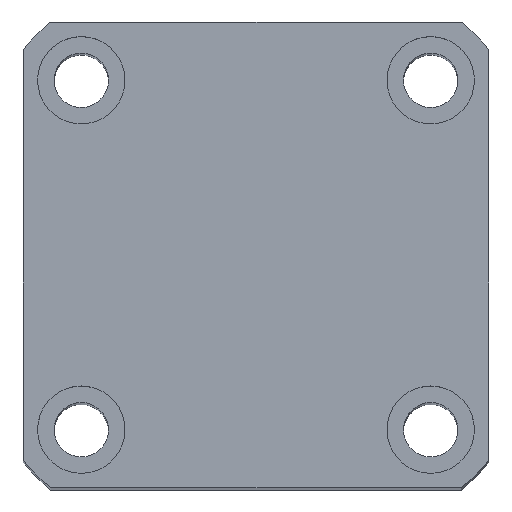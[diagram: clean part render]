
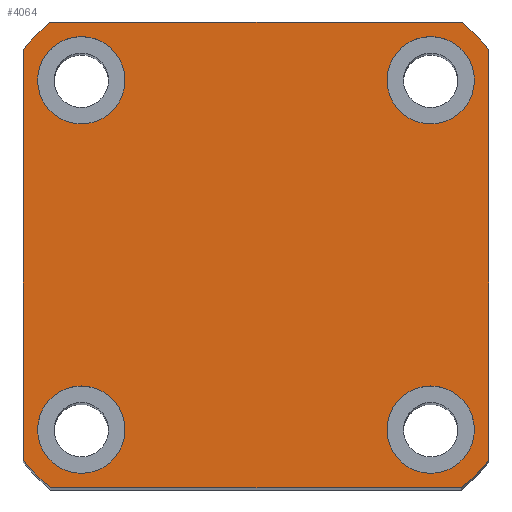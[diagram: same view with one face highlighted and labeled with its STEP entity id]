
A CAD part, top view. The second image highlights one B-rep face of the part: STEP entity #4064.
In plain terms, the highlighted planar face has unit normal (0, 0, 1) as drawn and (1, 0, 0) by its records, which use the part's own axes.
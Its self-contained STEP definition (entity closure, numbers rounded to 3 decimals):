
#130 = CARTESIAN_POINT ( 'NONE',  ( 125., -18., 22.5 ) ) ;
#208 = LINE ( 'NONE', #4447, #3366 ) ;
#314 = CIRCLE ( 'NONE', #5360, 32. ) ;
#329 = CARTESIAN_POINT ( 'NONE',  ( 125., 24., 24. ) ) ;
#440 = CARTESIAN_POINT ( 'NONE',  ( 125., 18., -13.5 ) ) ;
#446 = EDGE_CURVE ( 'NONE', #669, #4808, #2253, .T. ) ;
#553 = VERTEX_POINT ( 'NONE', #130 ) ;
#669 = VERTEX_POINT ( 'NONE', #5763 ) ;
#772 = AXIS2_PLACEMENT_3D ( 'NONE', #5924, #2297, #6556 ) ;
#796 = EDGE_CURVE ( 'NONE', #3899, #3981, #1052, .T. ) ;
#813 = DIRECTION ( 'NONE',  ( 0., 0., -1. ) ) ;
#818 = LINE ( 'NONE', #2943, #1020 ) ;
#819 = DIRECTION ( 'NONE',  ( 1., 0., 0. ) ) ;
#830 = CARTESIAN_POINT ( 'NONE',  ( 125., 0., 0. ) ) ;
#839 = AXIS2_PLACEMENT_3D ( 'NONE', #830, #819, #813 ) ;
#842 = LINE ( 'NONE', #329, #1044 ) ;
#873 = DIRECTION ( 'NONE',  ( 0., 0., -1. ) ) ;
#882 = ORIENTED_EDGE ( 'NONE', *, *, #7314, .F. ) ;
#894 = ORIENTED_EDGE ( 'NONE', *, *, #2593, .T. ) ;
#912 = EDGE_LOOP ( 'NONE', ( #6568, #5217 ) ) ;
#1020 = VECTOR ( 'NONE', #1681, 1000. ) ;
#1044 = VECTOR ( 'NONE', #1189, 1000. ) ;
#1047 = ORIENTED_EDGE ( 'NONE', *, *, #4332, .T. ) ;
#1052 = LINE ( 'NONE', #7989, #2741 ) ;
#1116 = FACE_BOUND ( 'NONE', #912, .T. ) ;
#1189 = DIRECTION ( 'NONE',  ( 0., -1., 0. ) ) ;
#1263 = VERTEX_POINT ( 'NONE', #6582 ) ;
#1284 = CARTESIAN_POINT ( 'NONE',  ( 125., -18., -22.5 ) ) ;
#1298 = ORIENTED_EDGE ( 'NONE', *, *, #1815, .F. ) ;
#1375 = VERTEX_POINT ( 'NONE', #5804 ) ;
#1486 = CARTESIAN_POINT ( 'NONE',  ( 125., -18., 13.5 ) ) ;
#1537 = CARTESIAN_POINT ( 'NONE',  ( 125., -21.166, -24. ) ) ;
#1566 = ORIENTED_EDGE ( 'NONE', *, *, #446, .T. ) ;
#1681 = DIRECTION ( 'NONE',  ( 0., 0., 1. ) ) ;
#1695 = AXIS2_PLACEMENT_3D ( 'NONE', #5764, #4551, #873 ) ;
#1815 = EDGE_CURVE ( 'NONE', #5591, #5397, #5945, .T. ) ;
#1929 = EDGE_CURVE ( 'NONE', #4808, #6063, #842, .T. ) ;
#1995 = CARTESIAN_POINT ( 'NONE',  ( 125., -24., 21.166 ) ) ;
#2127 = CIRCLE ( 'NONE', #3503, 4.5 ) ;
#2216 = DIRECTION ( 'NONE',  ( 1., 0., 0. ) ) ;
#2253 = CIRCLE ( 'NONE', #839, 32. ) ;
#2297 = DIRECTION ( 'NONE',  ( 1., 0., 0. ) ) ;
#2318 = DIRECTION ( 'NONE',  ( 1., 0., 0. ) ) ;
#2363 = CIRCLE ( 'NONE', #3650, 32. ) ;
#2377 = CIRCLE ( 'NONE', #772, 4.5 ) ;
#2387 = AXIS2_PLACEMENT_3D ( 'NONE', #5947, #2318, #6580 ) ;
#2463 = CARTESIAN_POINT ( 'NONE',  ( 125., 0., 0. ) ) ;
#2535 = DIRECTION ( 'NONE',  ( 1., 0., 0. ) ) ;
#2585 = EDGE_LOOP ( 'NONE', ( #7537, #894, #5606, #1566, #5269, #7479, #7069, #1047 ) ) ;
#2593 = EDGE_CURVE ( 'NONE', #1375, #1263, #3843, .T. ) ;
#2623 = EDGE_CURVE ( 'NONE', #3036, #4120, #5443, .T. ) ;
#2636 = AXIS2_PLACEMENT_3D ( 'NONE', #3034, #7316, #3634 ) ;
#2741 = VECTOR ( 'NONE', #7993, 1000. ) ;
#2750 = AXIS2_PLACEMENT_3D ( 'NONE', #5844, #2216, #6483 ) ;
#2765 = PLANE ( 'NONE',  #1695 ) ;
#2943 = CARTESIAN_POINT ( 'NONE',  ( 125., 24., 24. ) ) ;
#2987 = VERTEX_POINT ( 'NONE', #4762 ) ;
#3006 = FACE_BOUND ( 'NONE', #3637, .T. ) ;
#3034 = CARTESIAN_POINT ( 'NONE',  ( 125., 18., -18. ) ) ;
#3036 = VERTEX_POINT ( 'NONE', #6674 ) ;
#3076 = DIRECTION ( 'NONE',  ( 0., 0., -1. ) ) ;
#3165 = DIRECTION ( 'NONE',  ( 1., 0., 0. ) ) ;
#3274 = CARTESIAN_POINT ( 'NONE',  ( 125., -18., -18. ) ) ;
#3366 = VECTOR ( 'NONE', #5039, 1000. ) ;
#3503 = AXIS2_PLACEMENT_3D ( 'NONE', #6167, #2535, #6793 ) ;
#3594 = DIRECTION ( 'NONE',  ( 1., 0., 0. ) ) ;
#3599 = CARTESIAN_POINT ( 'NONE',  ( 125., -21.166, 24. ) ) ;
#3634 = DIRECTION ( 'NONE',  ( 0., 0., -1. ) ) ;
#3637 = EDGE_LOOP ( 'NONE', ( #1298, #882 ) ) ;
#3640 = VERTEX_POINT ( 'NONE', #440 ) ;
#3650 = AXIS2_PLACEMENT_3D ( 'NONE', #6806, #3165, #7447 ) ;
#3797 = EDGE_CURVE ( 'NONE', #4120, #3036, #2127, .T. ) ;
#3843 = CIRCLE ( 'NONE', #5131, 32. ) ;
#3899 = VERTEX_POINT ( 'NONE', #1995 ) ;
#3981 = VERTEX_POINT ( 'NONE', #5065 ) ;
#4064 = ADVANCED_FACE ( 'NONE', ( #3006, #7710, #6016, #1116, #7493 ), #2765, .T. ) ;
#4120 = VERTEX_POINT ( 'NONE', #5794 ) ;
#4286 = CIRCLE ( 'NONE', #2387, 4.5 ) ;
#4332 = EDGE_CURVE ( 'NONE', #3981, #5807, #314, .T. ) ;
#4447 = CARTESIAN_POINT ( 'NONE',  ( 125., 24., -24. ) ) ;
#4551 = DIRECTION ( 'NONE',  ( 1., 0., 0. ) ) ;
#4587 = EDGE_CURVE ( 'NONE', #2987, #3640, #4286, .T. ) ;
#4610 = EDGE_CURVE ( 'NONE', #1263, #669, #818, .T. ) ;
#4762 = CARTESIAN_POINT ( 'NONE',  ( 125., 18., -22.5 ) ) ;
#4808 = VERTEX_POINT ( 'NONE', #6294 ) ;
#4844 = EDGE_CURVE ( 'NONE', #5807, #1375, #208, .T. ) ;
#4987 = VERTEX_POINT ( 'NONE', #1486 ) ;
#5032 = AXIS2_PLACEMENT_3D ( 'NONE', #3274, #5283, #7005 ) ;
#5039 = DIRECTION ( 'NONE',  ( 0., 1., 0. ) ) ;
#5065 = CARTESIAN_POINT ( 'NONE',  ( 125., -24., -21.166 ) ) ;
#5075 = EDGE_CURVE ( 'NONE', #3640, #2987, #5079, .T. ) ;
#5079 = CIRCLE ( 'NONE', #2636, 4.5 ) ;
#5131 = AXIS2_PLACEMENT_3D ( 'NONE', #7185, #7168, #7149 ) ;
#5205 = ORIENTED_EDGE ( 'NONE', *, *, #4587, .F. ) ;
#5217 = ORIENTED_EDGE ( 'NONE', *, *, #2623, .F. ) ;
#5269 = ORIENTED_EDGE ( 'NONE', *, *, #1929, .T. ) ;
#5283 = DIRECTION ( 'NONE',  ( 1., 0., 0. ) ) ;
#5299 = CARTESIAN_POINT ( 'NONE',  ( 125., -18., -13.5 ) ) ;
#5360 = AXIS2_PLACEMENT_3D ( 'NONE', #2463, #6709, #3076 ) ;
#5362 = EDGE_CURVE ( 'NONE', #553, #4987, #2377, .T. ) ;
#5397 = VERTEX_POINT ( 'NONE', #5299 ) ;
#5443 = CIRCLE ( 'NONE', #5975, 4.5 ) ;
#5511 = AXIS2_PLACEMENT_3D ( 'NONE', #7278, #3594, #7909 ) ;
#5591 = VERTEX_POINT ( 'NONE', #1284 ) ;
#5606 = ORIENTED_EDGE ( 'NONE', *, *, #4610, .T. ) ;
#5763 = CARTESIAN_POINT ( 'NONE',  ( 125., 24., 21.166 ) ) ;
#5764 = CARTESIAN_POINT ( 'NONE',  ( 125., 0., 0. ) ) ;
#5794 = CARTESIAN_POINT ( 'NONE',  ( 125., 18., 13.5 ) ) ;
#5804 = CARTESIAN_POINT ( 'NONE',  ( 125., 21.166, -24. ) ) ;
#5807 = VERTEX_POINT ( 'NONE', #1537 ) ;
#5831 = EDGE_CURVE ( 'NONE', #4987, #553, #6739, .T. ) ;
#5844 = CARTESIAN_POINT ( 'NONE',  ( 125., -18., 18. ) ) ;
#5924 = CARTESIAN_POINT ( 'NONE',  ( 125., -18., 18. ) ) ;
#5945 = CIRCLE ( 'NONE', #5032, 4.5 ) ;
#5947 = CARTESIAN_POINT ( 'NONE',  ( 125., 18., -18. ) ) ;
#5969 = CARTESIAN_POINT ( 'NONE',  ( 125., 18., 18. ) ) ;
#5975 = AXIS2_PLACEMENT_3D ( 'NONE', #5969, #6676, #7096 ) ;
#6016 = FACE_BOUND ( 'NONE', #6878, .T. ) ;
#6063 = VERTEX_POINT ( 'NONE', #3599 ) ;
#6167 = CARTESIAN_POINT ( 'NONE',  ( 125., 18., 18. ) ) ;
#6294 = CARTESIAN_POINT ( 'NONE',  ( 125., 21.166, 24. ) ) ;
#6347 = ORIENTED_EDGE ( 'NONE', *, *, #5831, .F. ) ;
#6483 = DIRECTION ( 'NONE',  ( 0., 0., -1. ) ) ;
#6556 = DIRECTION ( 'NONE',  ( 0., 0., -1. ) ) ;
#6568 = ORIENTED_EDGE ( 'NONE', *, *, #3797, .F. ) ;
#6580 = DIRECTION ( 'NONE',  ( 0., 0., -1. ) ) ;
#6582 = CARTESIAN_POINT ( 'NONE',  ( 125., 24., -21.166 ) ) ;
#6674 = CARTESIAN_POINT ( 'NONE',  ( 125., 18., 22.5 ) ) ;
#6676 = DIRECTION ( 'NONE',  ( 1., 0., 0. ) ) ;
#6709 = DIRECTION ( 'NONE',  ( 1., 0., 0. ) ) ;
#6739 = CIRCLE ( 'NONE', #2750, 4.5 ) ;
#6793 = DIRECTION ( 'NONE',  ( 0., 0., -1. ) ) ;
#6806 = CARTESIAN_POINT ( 'NONE',  ( 125., 0., 0. ) ) ;
#6817 = EDGE_CURVE ( 'NONE', #6063, #3899, #2363, .T. ) ;
#6878 = EDGE_LOOP ( 'NONE', ( #5205, #7399 ) ) ;
#6996 = ORIENTED_EDGE ( 'NONE', *, *, #5362, .F. ) ;
#7005 = DIRECTION ( 'NONE',  ( 0., 0., -1. ) ) ;
#7069 = ORIENTED_EDGE ( 'NONE', *, *, #796, .T. ) ;
#7096 = DIRECTION ( 'NONE',  ( 0., 0., -1. ) ) ;
#7097 = EDGE_LOOP ( 'NONE', ( #6347, #6996 ) ) ;
#7149 = DIRECTION ( 'NONE',  ( 0., 0., -1. ) ) ;
#7168 = DIRECTION ( 'NONE',  ( 1., 0., 0. ) ) ;
#7185 = CARTESIAN_POINT ( 'NONE',  ( 125., 0., 0. ) ) ;
#7278 = CARTESIAN_POINT ( 'NONE',  ( 125., -18., -18. ) ) ;
#7314 = EDGE_CURVE ( 'NONE', #5397, #5591, #7332, .T. ) ;
#7316 = DIRECTION ( 'NONE',  ( 1., 0., 0. ) ) ;
#7332 = CIRCLE ( 'NONE', #5511, 4.5 ) ;
#7399 = ORIENTED_EDGE ( 'NONE', *, *, #5075, .F. ) ;
#7447 = DIRECTION ( 'NONE',  ( 0., 0., -1. ) ) ;
#7479 = ORIENTED_EDGE ( 'NONE', *, *, #6817, .T. ) ;
#7493 = FACE_OUTER_BOUND ( 'NONE', #2585, .T. ) ;
#7537 = ORIENTED_EDGE ( 'NONE', *, *, #4844, .T. ) ;
#7710 = FACE_BOUND ( 'NONE', #7097, .T. ) ;
#7909 = DIRECTION ( 'NONE',  ( 0., 0., -1. ) ) ;
#7989 = CARTESIAN_POINT ( 'NONE',  ( 125., -24., 24. ) ) ;
#7993 = DIRECTION ( 'NONE',  ( 0., 0., -1. ) ) ;
